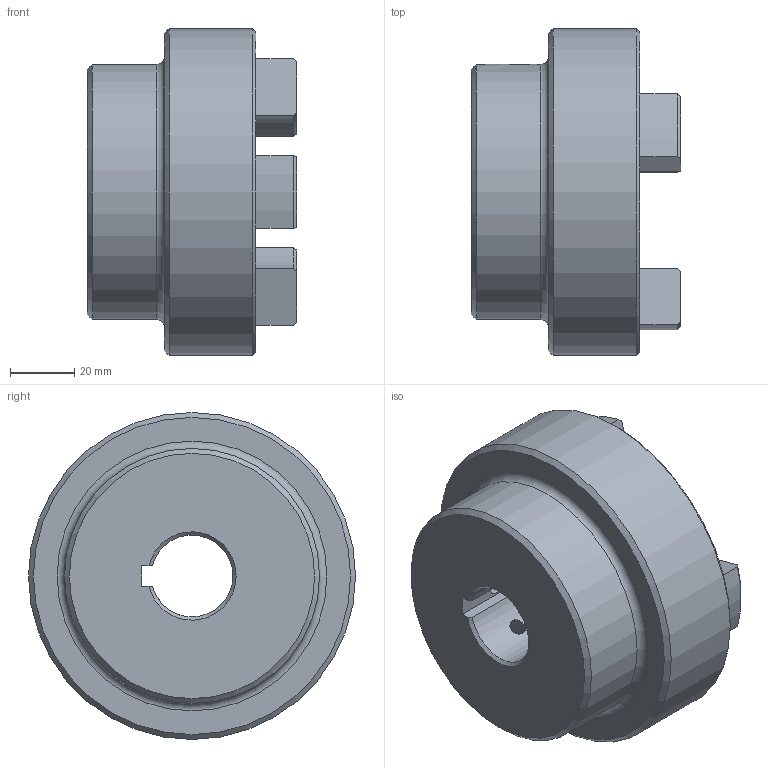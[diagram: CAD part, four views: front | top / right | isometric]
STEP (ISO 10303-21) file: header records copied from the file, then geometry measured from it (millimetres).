
FILE_DESCRIPTION (( 'STEP AP203' ), '1' );
FILE_NAME ('RC4.step', '2024-07-24T17:35:46', ( 'Adlan' ), ( '' ), 'SwSTEP 2.0', 'SolidWorks 2013', '' );
FILE_SCHEMA (( 'CONFIG_CONTROL_DESIGN' ));
Length unit declared in the file: inch
Products named in the file (1): RC4
Bounding box: 65.02 x 101.6 x 101.6 mm (x, y, z)
Volume: 259818.5 mm3; surface area: 41196.1 mm2
Topology: 1 solids, 1 shells, 67 faces, 168 edges, 105 vertices
Faces by surface type: cylinder 26, plane 16, torus 13, cone 12
Full cylindrical faces by diameter (mm): 5.105 x2, 79.248 x1, 101.6 x1
Entity records: 2239 total; most frequent: CARTESIAN_POINT 564, DIRECTION 354, ORIENTED_EDGE 310, EDGE_CURVE 155, AXIS2_PLACEMENT_3D 142, VERTEX_POINT 102, EDGE_LOOP 85, CIRCLE 74
